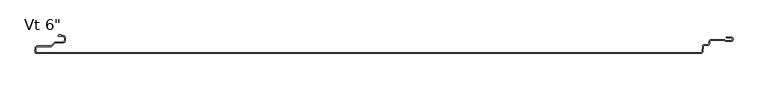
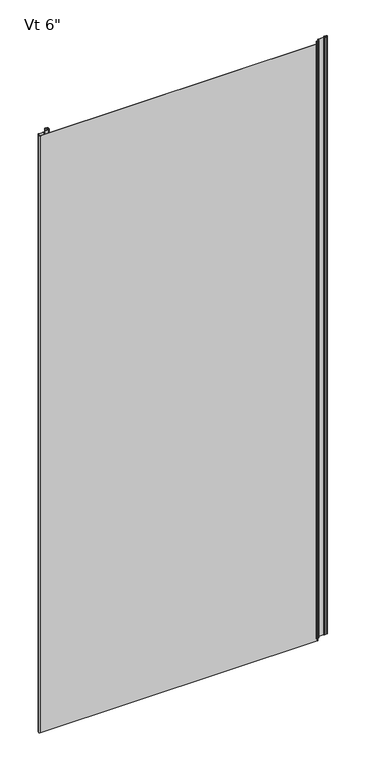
"""IFC4 building model written with IfcOpenShell, lengths in millimetres: plate geometry."""

from ifc_helpers import new_model, si_unit, point, frame_2d, origin, origin_with_axes, place, context, project, spatial, polyline, circle_curve, trimmed, segment, composite_curve, outline, extrude, source, transform, mapped, element, save


def plate_0e0b5b4f(model_context):
    return source(origin(), model_context, "Body", "SweptSolid", [
        extrude(outline(composite_curve([segment(polyline([(-532.5329867, -122.9060333), (-528.774586, -122.9060333), (-528.774586, -124.3045169), (-526.0754696, -124.3045169)]), True, "CONTINUOUS"), segment(trimmed(circle_curve(frame_2d((-526.0754696, -127.6545168)), 3.3499999), [point((-526.0754696, -124.3045169))], [point((-522.7254697, -127.6545168))], False, "CARTESIAN"), True, "CONTINUOUS"), segment(polyline([(-522.7254697, -127.6545168), (-522.7254697, -132.0545166)]), True, "CONTINUOUS"), segment(trimmed(circle_curve(frame_2d((-526.0754696, -132.0545166)), 3.3499999), [point((-522.7254697, -132.0545166))], [point((-526.0754696, -135.4045165))], False, "CARTESIAN"), True, "CONTINUOUS"), segment(polyline([(-526.0754696, -135.4045165), (-537.8863818, -135.4045165)]), True, "CONTINUOUS"), segment(trimmed(circle_curve(frame_2d((-537.8863818, -137.1045165)), 1.7), [point((-537.8863818, -135.4045165))], [point((-539.0884633, -135.902435))], True, "CARTESIAN"), True, "CONTINUOUS"), segment(polyline([(-539.0884633, -135.902435), (-543.8290223, -140.6429939)]), True, "CONTINUOUS"), segment(trimmed(circle_curve(frame_2d((-545.6674999, -138.8045163)), 2.6), [point((-543.8290223, -140.6429939))], [point((-545.6674999, -141.4045163))], False, "CARTESIAN"), True, "CONTINUOUS"), segment(polyline([(-545.6674999, -141.4045163), (-566.6742572, -141.4045163)]), True, "CONTINUOUS"), segment(trimmed(circle_curve(frame_2d((-566.6742572, -144.1045163)), 2.7), [point((-566.6742572, -141.4045163))], [point((-569.3639643, -143.8689835))], True, "CARTESIAN"), True, "CONTINUOUS"), segment(polyline([(-569.3639643, -143.8689835), (-569.7796495, -148.6159721)]), True, "CONTINUOUS"), segment(trimmed(circle_curve(frame_2d((-567.22876, -148.8393488)), 2.5606512), [point((-569.7796495, -148.6159721))], [point((-567.22876, -151.4))], True, "CARTESIAN"), True, "CONTINUOUS"), segment(polyline([(-567.22876, -151.4), (487.6519047, -151.4)]), True, "CONTINUOUS"), segment(trimmed(circle_curve(frame_2d((487.6519047, -149.5102824)), 1.8897176), [point((487.6519047, -151.4))], [point((489.5344274, -149.6750281))], True, "CARTESIAN"), True, "CONTINUOUS"), segment(polyline([(489.5344274, -149.6750281), (490.2810225, -141.1438082)]), True, "CONTINUOUS"), segment(trimmed(circle_curve(frame_2d((493.2970771, -141.4077531)), 3.027582), [point((490.2810225, -141.1438082))], [point((490.8950589, -139.5647769))], False, "CARTESIAN"), True, "CONTINUOUS"), segment(trimmed(circle_curve(frame_2d((493.2751942, -141.3909631)), 3.0), [point((490.8950589, -139.5647769))], [point((493.2848524, -138.3909787))], False, "CARTESIAN"), True, "CONTINUOUS"), segment(polyline([(493.2848524, -138.3909787), (498.6449659, -138.3909787)]), True, "CONTINUOUS"), segment(trimmed(circle_curve(frame_2d((498.6449659, -136.5909787)), 1.8), [point((498.6449659, -138.3909787))], [point((500.4449659, -136.5909787))], True, "CARTESIAN"), True, "CONTINUOUS"), segment(polyline([(500.4449659, -136.5909787), (500.4449659, -134.300418)]), True, "CONTINUOUS"), segment(trimmed(circle_curve(frame_2d((504.4449659, -134.300418)), 4.0), [point((500.4449659, -134.300418))], [point((504.4449659, -130.300418))], False, "CARTESIAN"), True, "CONTINUOUS"), segment(polyline([(504.4449659, -130.300418), (523.9824407, -130.300418)]), True, "CONTINUOUS"), segment(trimmed(circle_curve(frame_2d((523.9824407, -132.900418)), 2.6), [point((523.9824407, -130.300418))], [point((525.9423153, -131.1919416))], False, "CARTESIAN"), True, "CONTINUOUS"), segment(polyline([(525.9423153, -131.1919416), (526.8881383, -132.2769402), (535.7430969, -131.9263694)]), True, "CONTINUOUS"), segment(trimmed(circle_curve(frame_2d((535.6599479, -129.8261346)), 2.10188), [point((535.7430969, -131.9263694))], [point((535.7400007, -127.7257796))], True, "CARTESIAN"), True, "CONTINUOUS"), segment(polyline([(535.7400007, -127.7257796), (527.7295248, -127.2370324), (527.790425, -126.2388885), (535.7906063, -126.7270077)]), True, "CONTINUOUS"), segment(trimmed(circle_curve(frame_2d((535.6599479, -129.8261346)), 3.10188), [point((535.7906063, -126.7270077))], [point((535.7826562, -132.9255866))], False, "CARTESIAN"), True, "CONTINUOUS"), segment(polyline([(535.7826562, -132.9255866), (526.4490857, -133.2951059), (525.1885174, -131.8490479)]), True, "CONTINUOUS"), segment(trimmed(circle_curve(frame_2d((523.9824407, -132.900418)), 1.6), [point((525.1885174, -131.8490479))], [point((523.9824407, -131.300418))], True, "CARTESIAN"), True, "CONTINUOUS"), segment(polyline([(523.9824407, -131.300418), (504.4449659, -131.300418)]), True, "CONTINUOUS"), segment(trimmed(circle_curve(frame_2d((504.4449659, -134.300418)), 3.0), [point((504.4449659, -131.300418))], [point((501.4449659, -134.300418))], True, "CARTESIAN"), True, "CONTINUOUS"), segment(polyline([(501.4449659, -134.300418), (501.4449659, -136.5909787)]), True, "CONTINUOUS"), segment(trimmed(circle_curve(frame_2d((498.6449659, -136.5909787)), 2.8), [point((501.4449659, -136.5909787))], [point((498.6449659, -139.3909787))], False, "CARTESIAN"), True, "CONTINUOUS"), segment(polyline([(498.6449659, -139.3909787), (493.28308, -139.3909787)]), True, "CONTINUOUS"), segment(trimmed(circle_curve(frame_2d((493.2751942, -141.3909631)), 2.0), [point((493.28308, -139.3909787))], [point((491.6884373, -140.1735057))], True, "CARTESIAN"), True, "CONTINUOUS"), segment(trimmed(circle_curve(frame_2d((493.2970771, -141.4077531)), 2.027582), [point((491.6884373, -140.1735057))], [point((491.277215, -141.2309883))], True, "CARTESIAN"), True, "CONTINUOUS"), segment(polyline([(491.277215, -141.2309883), (490.53062, -149.7622082)]), True, "CONTINUOUS"), segment(trimmed(circle_curve(frame_2d((487.6519047, -149.5102824)), 2.8897176), [point((490.53062, -149.7622082))], [point((487.6519047, -152.4))], False, "CARTESIAN"), True, "CONTINUOUS"), segment(polyline([(487.6519047, -152.4), (-567.22876, -152.4)]), True, "CONTINUOUS"), segment(trimmed(circle_curve(frame_2d((-567.22876, -148.8393488)), 3.5606512), [point((-567.22876, -152.4))], [point((-570.7758373, -148.5287377))], False, "CARTESIAN"), True, "CONTINUOUS"), segment(polyline([(-570.7758373, -148.5287377), (-570.3601521, -143.7817491)]), True, "CONTINUOUS"), segment(trimmed(circle_curve(frame_2d((-566.6742572, -144.1045163)), 3.7), [point((-570.3601521, -143.7817491))], [point((-566.6742572, -140.4045163))], False, "CARTESIAN"), True, "CONTINUOUS"), segment(polyline([(-566.6742572, -140.4045163), (-545.6674999, -140.4045163)]), True, "CONTINUOUS"), segment(trimmed(circle_curve(frame_2d((-545.6674999, -138.8045163)), 1.6), [point((-545.6674999, -140.4045163))], [point((-544.5361291, -139.9358871))], True, "CARTESIAN"), True, "CONTINUOUS"), segment(polyline([(-544.5361291, -139.9358871), (-539.7955701, -135.1953282)]), True, "CONTINUOUS"), segment(trimmed(circle_curve(frame_2d((-537.8863818, -137.1045165)), 2.7), [point((-539.7955701, -135.1953282))], [point((-537.8863818, -134.4045165))], False, "CARTESIAN"), True, "CONTINUOUS"), segment(polyline([(-537.8863818, -134.4045165), (-526.0754696, -134.4045165)]), True, "CONTINUOUS"), segment(trimmed(circle_curve(frame_2d((-526.0754696, -132.0545166)), 2.3499999), [point((-526.0754696, -134.4045165))], [point((-523.7254697, -132.0545166))], True, "CARTESIAN"), True, "CONTINUOUS"), segment(polyline([(-523.7254697, -132.0545166), (-523.7254697, -127.6545168)]), True, "CONTINUOUS"), segment(trimmed(circle_curve(frame_2d((-526.0754696, -127.6545168)), 2.3499999), [point((-523.7254697, -127.6545168))], [point((-526.0754696, -125.3045169))], True, "CARTESIAN"), True, "CONTINUOUS"), segment(polyline([(-526.0754696, -125.3045169), (-532.5947886, -125.3045169)]), True, "CONTINUOUS"), segment(trimmed(circle_curve(frame_2d((-532.5345014, -124.1060323)), 1.2), [point((-532.5947886, -125.3045169))], [point((-532.5329867, -122.9060333))], False, "CARTESIAN"), True, "CONTINUOUS")], self_intersect=False)), origin_with_axes(), (0.0, 0.0, 1.0), 2400.0),
    ])


if __name__ == "__main__":
    model = new_model("IFC4")
    model_context = context("Model", 3, world=origin())
    ifc_project = project(units=[si_unit("LENGTHUNIT", "METRE", prefix="MILLI")], contexts=[model_context])
    site = spatial("IfcSite", under=ifc_project)
    building = spatial("IfcBuilding", under=site)
    placement = place(None, origin())
    plate_shape = plate_0e0b5b4f(model_context)
    element("IfcPlate", 1, ObjectType="KIP-42-KRHF-R19-CP-Vt-FL_SL : Vt 6\"", at=placement, inside=building, context=model_context, shape_type="MappedRepresentation", body=[
        mapped(plate_shape, transform((0.0, 0.0, 0.0), x_axis=(1.0, 0.0, 0.0), y_axis=(0.0, 1.0, 0.0), z_axis=(0.0, 0.0, 1.0))),
    ])
    save(model, "model.ifc")
